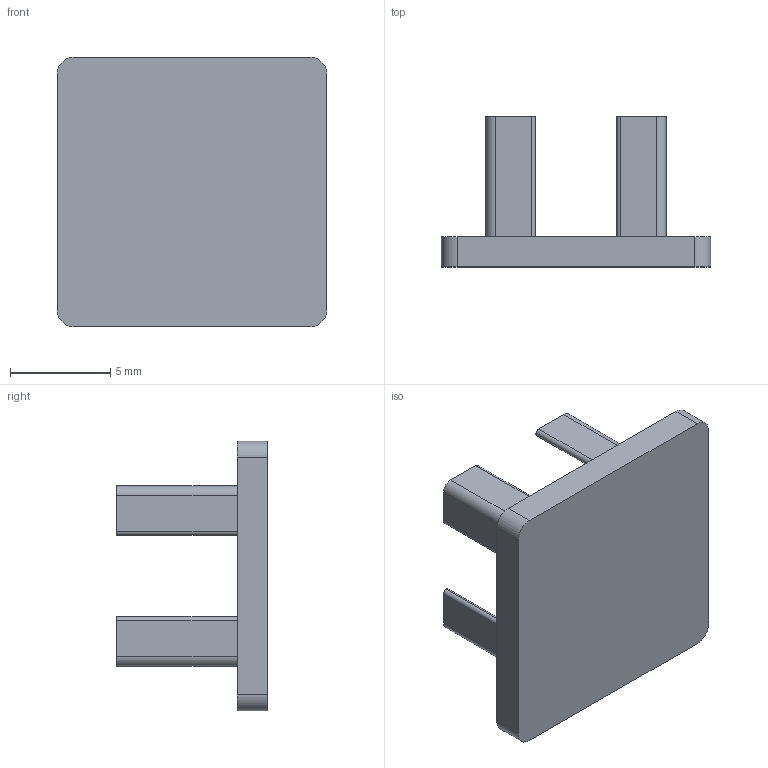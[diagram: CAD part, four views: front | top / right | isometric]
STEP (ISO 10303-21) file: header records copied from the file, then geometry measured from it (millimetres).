
FILE_DESCRIPTION (( 'STEP AP214' ), '1' );
FILE_NAME ('Tapeta embellidor PP63B.STEP', '2017-01-23T03:55:47', ( 'aaa' ), ( '' ), 'SwSTEP 2.0', 'SolidWorks 2013', '' );
FILE_SCHEMA (( 'AUTOMOTIVE_DESIGN' ));
Length unit declared in the file: millimetre
Products named in the file (1): Tapeta embellidor PP63B
Bounding box: 13.45 x 7.5 x 13.45 mm (x, y, z)
Volume: 357.6 mm3; surface area: 635.8 mm2
Topology: 1 solids, 1 shells, 40 faces, 102 edges, 68 vertices
Faces by surface type: plane 22, cylinder 18
Entity records: 1256 total; most frequent: DIRECTION 220, CARTESIAN_POINT 211, ORIENTED_EDGE 204, EDGE_CURVE 102, AXIS2_PLACEMENT_3D 77, VERTEX_POINT 68, VECTOR 66, LINE 66
